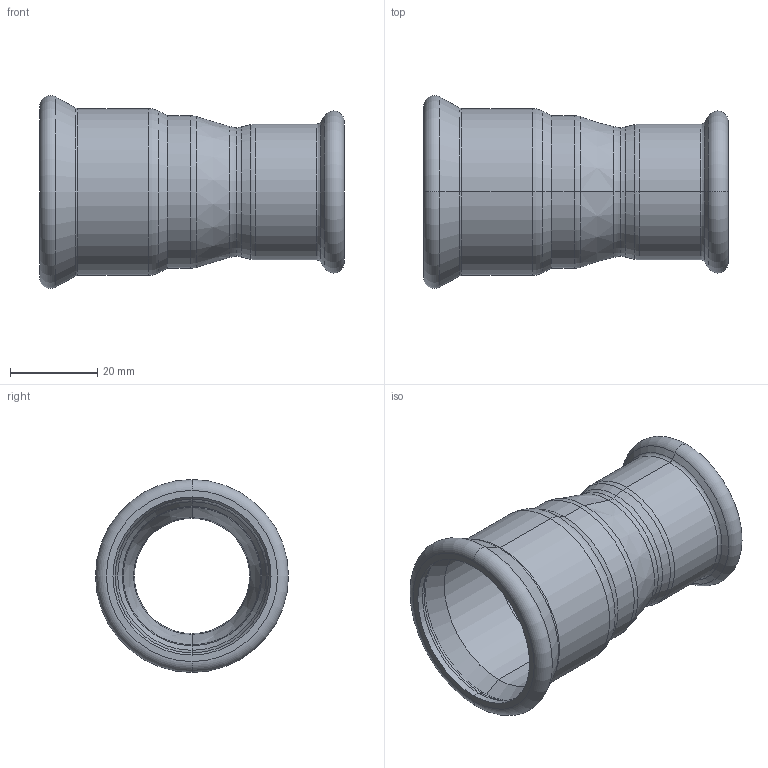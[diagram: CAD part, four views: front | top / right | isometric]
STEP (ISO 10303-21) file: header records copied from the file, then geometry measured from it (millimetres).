
FILE_DESCRIPTION (( 'STEP AP214' ), '1' );
FILE_NAME ('R352800.STEP', '2025-08-17T15:12:46', ( '' ), ( '' ), 'SwSTEP 2.0', 'SolidWorks 2020', '' );
FILE_SCHEMA (( 'AUTOMOTIVE_DESIGN' ));
Length unit declared in the file: millimetre
Products named in the file (1): R352800
Bounding box: 70 x 44.3 x 44.3 mm (x, y, z)
Volume: 12937.2 mm3; surface area: 16914 mm2
Topology: 1 solids, 1 shells, 76 faces, 152 edges, 80 vertices
Faces by surface type: torus 36, cone 20, cylinder 16, plane 4
Entity records: 2746 total; most frequent: DIRECTION 422, CARTESIAN_POINT 309, ORIENTED_EDGE 304, AXIS2_PLACEMENT_3D 193, EDGE_CURVE 152, CIRCLE 116, VERTEX_POINT 80, EDGE_LOOP 80
